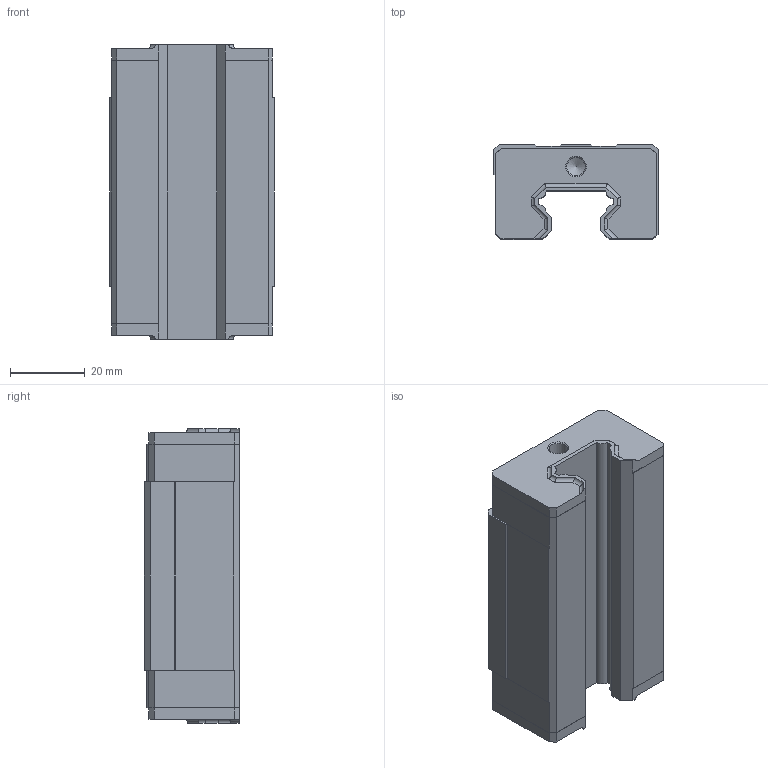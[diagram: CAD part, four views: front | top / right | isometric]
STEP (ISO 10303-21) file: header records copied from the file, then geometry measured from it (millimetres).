
FILE_DESCRIPTION(/* description */ (''),/* implementation_level */ '2;1');
FILE_NAME(/* name */ 'C:\Users\daviddillkoetter\ownCloud\Kamp und Kötter\Artikel\KPN_Profilführungen\Step\KPNW-20X-BS.stp',/* time_stamp */ '2021-01-27T16:44:02+01:00',/* author */ ('daviddillkoetter'),/* organization */ (''),/* preprocessor_version */ 'ST-DEVELOPER v18.1',/* originating_system */ 'Autodesk Inventor 2021',/* authorisation */ '');
FILE_SCHEMA (('AUTOMOTIVE_DESIGN { 1 0 10303 214 3 1 1 }'));
Length unit declared in the file: millimetre
Products named in the file (1): KPNW_F
Bounding box: 44 x 25.4 x 78.6 mm (x, y, z)
Volume: 66559 mm3; surface area: 15272.6 mm2
Topology: 1 solids, 1 shells, 116 faces, 336 edges, 222 vertices
Faces by surface type: plane 72, cylinder 32, cone 12
Full cylindrical faces by diameter (mm): 4.134 x4, 4.917 x2
Entity records: 3912 total; most frequent: CARTESIAN_POINT 669, ORIENTED_EDGE 660, DIRECTION 620, EDGE_CURVE 330, LINE 274, VECTOR 274, VERTEX_POINT 222, AXIS2_PLACEMENT_3D 173
